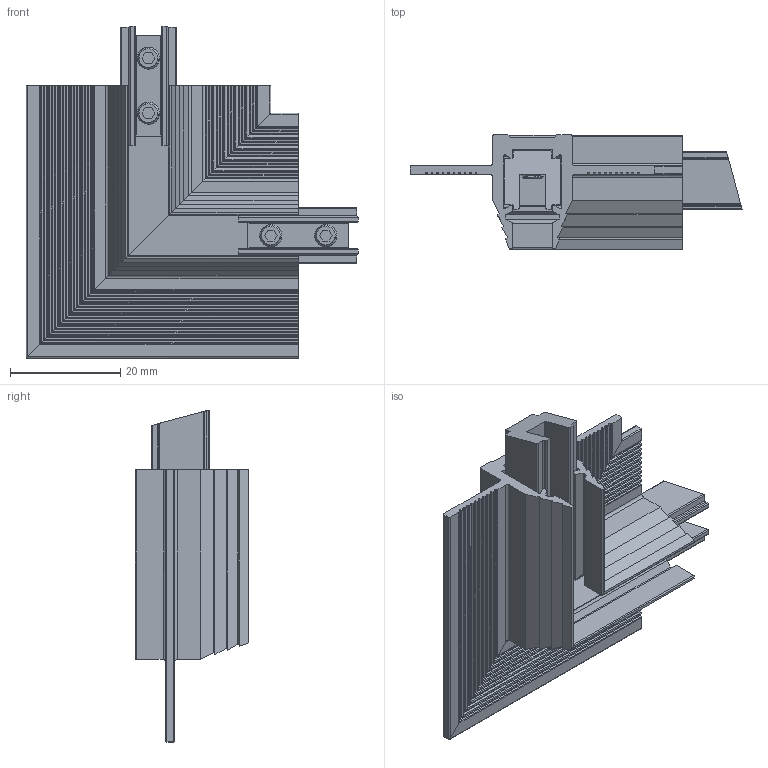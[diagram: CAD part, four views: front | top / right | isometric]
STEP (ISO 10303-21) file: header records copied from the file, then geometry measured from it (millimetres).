
FILE_DESCRIPTION((''),'2;1');
FILE_NAME('KC-0006-94_ASM','2025-08-01T15:28:52',('YF-06'),(''),'CREO PARAMETRIC BY PTC INC, 2022073','CREO PARAMETRIC BY PTC INC, 2022073','');
FILE_SCHEMA(('CONFIG_CONTROL_DESIGN','SHAPE_APPEARANCE_LAYERS_GROUPS'));
Length unit declared in the file: millimetre
Products named in the file (5): KC-0006-0070; KC-0006-0069; KC-0006-0014; M4_5; KC-0006-94_ASM
Assembly tree (8 placements, depth 2):
  KC-0006-94_ASM
    KC-0006-0070
    KC-0006-0069
    KC-0006-0014  x2
    M4_5  x4
Bounding box: 60.34 x 20.7 x 60.34 mm (x, y, z)
Volume: 10622.2 mm3; surface area: 13634.3 mm2
Topology: 8 solids, 12 shells, 532 faces, 1508 edges, 996 vertices
Faces by surface type: plane 260, cylinder 220, cone 28, bspline 24
Entity records: 14368 total; most frequent: CARTESIAN_POINT 3807, ORIENTED_EDGE 2268, DIRECTION 1899, EDGE_CURVE 1138, VECTOR 791, LINE 791, VERTEX_POINT 755, AXIS2_PLACEMENT_3D 554
